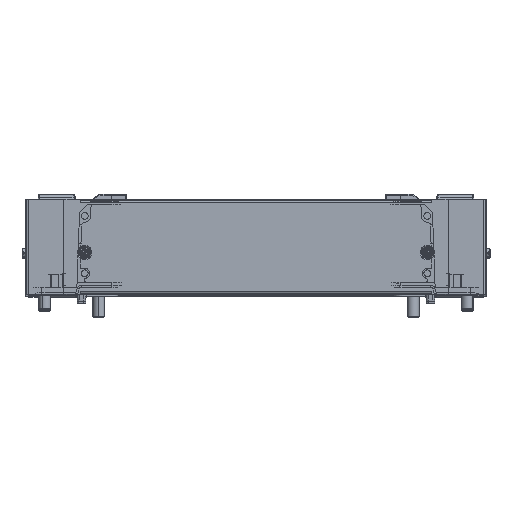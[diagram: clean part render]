
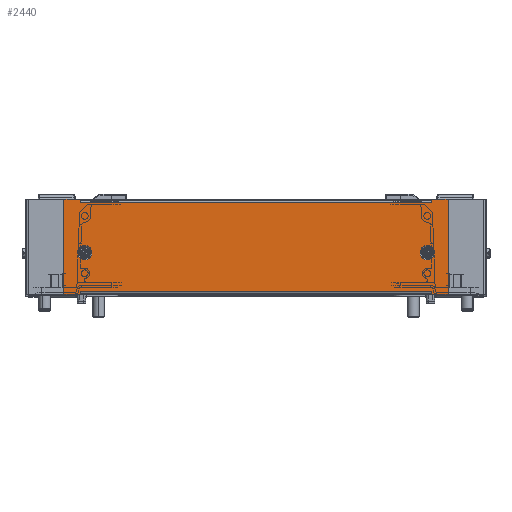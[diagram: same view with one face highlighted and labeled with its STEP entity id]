
A CAD part, top view. The second image highlights one B-rep face of the part: STEP entity #2440.
In plain terms, the highlighted planar face has unit normal (0, 0, 1) as drawn and (0, 0, -1) by its records, which use the part's own axes.
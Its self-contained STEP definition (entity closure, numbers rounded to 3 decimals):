
#2092 = VERTEX_POINT ( 'NONE', #19610 ) ;
#2094 = EDGE_CURVE ( 'NONE', #2092, #2095, #19609, .T. ) ;
#2095 = VERTEX_POINT ( 'NONE', #19603 ) ;
#2158 = VERTEX_POINT ( 'NONE', #19670 ) ;
#2162 = EDGE_CURVE ( 'NONE', #2158, #2163, #19669, .T. ) ;
#2163 = VERTEX_POINT ( 'NONE', #19665 ) ;
#2177 = EDGE_CURVE ( 'NONE', #2275, #2277, #19657, .T. ) ;
#2249 = VERTEX_POINT ( 'NONE', #19759 ) ;
#2253 = EDGE_CURVE ( 'NONE', #2249, #2256, #19758, .T. ) ;
#2256 = VERTEX_POINT ( 'NONE', #19753 ) ;
#2269 = EDGE_CURVE ( 'NONE', #2271, #2273, #19745, .T. ) ;
#2271 = VERTEX_POINT ( 'NONE', #19854 ) ;
#2273 = VERTEX_POINT ( 'NONE', #19853 ) ;
#2275 = VERTEX_POINT ( 'NONE', #19852 ) ;
#2277 = VERTEX_POINT ( 'NONE', #19850 ) ;
#2307 = ORIENTED_EDGE ( 'NONE', *, *, #2094, .F. ) ;
#2310 = EDGE_LOOP ( 'NONE', ( #2311, #2312, #2416, #2418, #2423, #2429, #2433, #2435, #2387, #2389, #2394, #2400 ) ) ;
#2311 = ORIENTED_EDGE ( 'NONE', *, *, #2162, .F. ) ;
#2312 = ORIENTED_EDGE ( 'NONE', *, *, #2414, .T. ) ;
#2387 = ORIENTED_EDGE ( 'NONE', *, *, #2269, .F. ) ;
#2389 = ORIENTED_EDGE ( 'NONE', *, *, #2391, .F. ) ;
#2391 = EDGE_CURVE ( 'NONE', #2393, #2271, #19996, .T. ) ;
#2393 = VERTEX_POINT ( 'NONE', #19991 ) ;
#2394 = ORIENTED_EDGE ( 'NONE', *, *, #2396, .F. ) ;
#2396 = EDGE_CURVE ( 'NONE', #2398, #2393, #19987, .T. ) ;
#2398 = VERTEX_POINT ( 'NONE', #19981 ) ;
#2400 = ORIENTED_EDGE ( 'NONE', *, *, #2402, .F. ) ;
#2402 = EDGE_CURVE ( 'NONE', #2163, #2398, #19980, .T. ) ;
#2414 = EDGE_CURVE ( 'NONE', #2158, #2277, #20086, .T. ) ;
#2416 = ORIENTED_EDGE ( 'NONE', *, *, #2177, .F. ) ;
#2418 = ORIENTED_EDGE ( 'NONE', *, *, #2420, .F. ) ;
#2420 = EDGE_CURVE ( 'NONE', #2421, #2275, #20068, .T. ) ;
#2421 = VERTEX_POINT ( 'NONE', #20064 ) ;
#2423 = ORIENTED_EDGE ( 'NONE', *, *, #2425, .F. ) ;
#2425 = EDGE_CURVE ( 'NONE', #2427, #2421, #20059, .T. ) ;
#2427 = VERTEX_POINT ( 'NONE', #20054 ) ;
#2429 = ORIENTED_EDGE ( 'NONE', *, *, #2431, .F. ) ;
#2431 = EDGE_CURVE ( 'NONE', #2256, #2427, #20047, .T. ) ;
#2433 = ORIENTED_EDGE ( 'NONE', *, *, #2253, .F. ) ;
#2435 = ORIENTED_EDGE ( 'NONE', *, *, #2436, .T. ) ;
#2436 = EDGE_CURVE ( 'NONE', #2249, #2273, #20039, .T. ) ;
#2440 = ADVANCED_FACE ( 'NONE', ( #20034, #20033, #20032 ), #20161, .F. ) ;
#2442 = EDGE_LOOP ( 'NONE', ( #2443, #2445 ) ) ;
#2443 = ORIENTED_EDGE ( 'NONE', *, *, #2444, .F. ) ;
#2444 = EDGE_CURVE ( 'NONE', #16453, #27323, #20155, .T. ) ;
#2445 = ORIENTED_EDGE ( 'NONE', *, *, #30381, .F. ) ;
#2447 = EDGE_LOOP ( 'NONE', ( #2448, #2307 ) ) ;
#2448 = ORIENTED_EDGE ( 'NONE', *, *, #2449, .F. ) ;
#2449 = EDGE_CURVE ( 'NONE', #2095, #2092, #20136, .T. ) ;
#16453 = VERTEX_POINT ( 'NONE', #37159 ) ;
#19603 = CARTESIAN_POINT ( 'NONE',  ( -6.689, 0.511, 0. ) ) ;
#19604 = DIRECTION ( 'NONE',  ( 0., 1., 0. ) ) ;
#19605 = DIRECTION ( 'NONE',  ( 0., 0., -1. ) ) ;
#19606 = CARTESIAN_POINT ( 'NONE',  ( -6.689, 0.226, 0. ) ) ;
#19607 = AXIS2_PLACEMENT_3D ( 'NONE', #19606, #19605, #19604 ) ;
#19609 = CIRCLE ( 'NONE', #19607, 0.284 ) ;
#19610 = CARTESIAN_POINT ( 'NONE',  ( -6.689, -0.058, 0. ) ) ;
#19651 = DIRECTION ( 'NONE',  ( 0., 1., 0. ) ) ;
#19652 = VECTOR ( 'NONE', #19651, 39.37 ) ;
#19653 = CARTESIAN_POINT ( 'NONE',  ( -6.853, -1.858, 0. ) ) ;
#19657 = LINE ( 'NONE', #19653, #19652 ) ;
#19665 = CARTESIAN_POINT ( 'NONE',  ( 6.853, -1.858, 0. ) ) ;
#19666 = DIRECTION ( 'NONE',  ( 0., -1., 0. ) ) ;
#19667 = VECTOR ( 'NONE', #19666, 39.37 ) ;
#19668 = CARTESIAN_POINT ( 'NONE',  ( 6.853, -1.858, 0. ) ) ;
#19669 = LINE ( 'NONE', #19668, #19667 ) ;
#19670 = CARTESIAN_POINT ( 'NONE',  ( 6.853, -1.743, 0. ) ) ;
#19740 = DIRECTION ( 'NONE',  ( 0., -1., 0. ) ) ;
#19741 = CARTESIAN_POINT ( 'NONE',  ( 6.853, -1.858, 0. ) ) ;
#19745 = LINE ( 'NONE', #19741, #19857 ) ;
#19753 = CARTESIAN_POINT ( 'NONE',  ( -6.853, 1.857, 0. ) ) ;
#19754 = DIRECTION ( 'NONE',  ( 0., 1., 0. ) ) ;
#19755 = VECTOR ( 'NONE', #19754, 39.37 ) ;
#19757 = CARTESIAN_POINT ( 'NONE',  ( -6.853, -1.858, 0. ) ) ;
#19758 = LINE ( 'NONE', #19757, #19755 ) ;
#19759 = CARTESIAN_POINT ( 'NONE',  ( -6.853, 1.743, 0. ) ) ;
#19850 = CARTESIAN_POINT ( 'NONE',  ( -6.853, -1.743, 0. ) ) ;
#19852 = CARTESIAN_POINT ( 'NONE',  ( -6.853, -1.858, 0. ) ) ;
#19853 = CARTESIAN_POINT ( 'NONE',  ( 6.853, 1.743, 0. ) ) ;
#19854 = CARTESIAN_POINT ( 'NONE',  ( 6.853, 1.857, 0. ) ) ;
#19857 = VECTOR ( 'NONE', #19740, 39.37 ) ;
#19977 = DIRECTION ( 'NONE',  ( 1., 0., 0. ) ) ;
#19978 = CARTESIAN_POINT ( 'NONE',  ( -7.5, -1.858, 0. ) ) ;
#19980 = LINE ( 'NONE', #19978, #20097 ) ;
#19981 = CARTESIAN_POINT ( 'NONE',  ( 7.5, -1.858, 0. ) ) ;
#19984 = DIRECTION ( 'NONE',  ( 0., 1., 0. ) ) ;
#19985 = VECTOR ( 'NONE', #19984, 39.37 ) ;
#19986 = CARTESIAN_POINT ( 'NONE',  ( 7.5, 1.857, 0. ) ) ;
#19987 = LINE ( 'NONE', #19986, #19985 ) ;
#19991 = CARTESIAN_POINT ( 'NONE',  ( 7.5, 1.857, 0. ) ) ;
#19993 = DIRECTION ( 'NONE',  ( -1., 0., 0. ) ) ;
#19994 = VECTOR ( 'NONE', #19993, 39.37 ) ;
#19995 = CARTESIAN_POINT ( 'NONE',  ( -7.5, 1.857, 0. ) ) ;
#19996 = LINE ( 'NONE', #19995, #19994 ) ;
#20032 = FACE_OUTER_BOUND ( 'NONE', #2310, .T. ) ;
#20033 = FACE_BOUND ( 'NONE', #2447, .T. ) ;
#20034 = FACE_BOUND ( 'NONE', #2442, .T. ) ;
#20035 = DIRECTION ( 'NONE',  ( 1., 0., 0. ) ) ;
#20036 = VECTOR ( 'NONE', #20035, 39.37 ) ;
#20037 = CARTESIAN_POINT ( 'NONE',  ( -6.853, 1.742, 0. ) ) ;
#20039 = LINE ( 'NONE', #20037, #20036 ) ;
#20043 = DIRECTION ( 'NONE',  ( -1., 0., 0. ) ) ;
#20044 = VECTOR ( 'NONE', #20043, 39.37 ) ;
#20045 = CARTESIAN_POINT ( 'NONE',  ( -7.5, 1.857, 0. ) ) ;
#20047 = LINE ( 'NONE', #20045, #20044 ) ;
#20054 = CARTESIAN_POINT ( 'NONE',  ( -7.5, 1.857, 0. ) ) ;
#20056 = DIRECTION ( 'NONE',  ( 0., -1., 0. ) ) ;
#20057 = VECTOR ( 'NONE', #20056, 39.37 ) ;
#20058 = CARTESIAN_POINT ( 'NONE',  ( -7.5, 1.857, 0. ) ) ;
#20059 = LINE ( 'NONE', #20058, #20057 ) ;
#20064 = CARTESIAN_POINT ( 'NONE',  ( -7.5, -1.858, 0. ) ) ;
#20065 = DIRECTION ( 'NONE',  ( 1., 0., 0. ) ) ;
#20066 = VECTOR ( 'NONE', #20065, 39.37 ) ;
#20067 = CARTESIAN_POINT ( 'NONE',  ( -7.5, -1.858, 0. ) ) ;
#20068 = LINE ( 'NONE', #20067, #20066 ) ;
#20072 = DIRECTION ( 'NONE',  ( -1., 0., 0. ) ) ;
#20074 = VECTOR ( 'NONE', #20072, 39.37 ) ;
#20076 = CARTESIAN_POINT ( 'NONE',  ( 6.853, -1.743, 0. ) ) ;
#20086 = LINE ( 'NONE', #20076, #20074 ) ;
#20097 = VECTOR ( 'NONE', #19977, 39.37 ) ;
#20132 = DIRECTION ( 'NONE',  ( 0., 1., 0. ) ) ;
#20133 = DIRECTION ( 'NONE',  ( 0., 0., -1. ) ) ;
#20134 = CARTESIAN_POINT ( 'NONE',  ( -6.689, 0.226, 0. ) ) ;
#20135 = AXIS2_PLACEMENT_3D ( 'NONE', #20134, #20133, #20132 ) ;
#20136 = CIRCLE ( 'NONE', #20135, 0.284 ) ;
#20138 = DIRECTION ( 'NONE',  ( 0., 1., 0. ) ) ;
#20140 = DIRECTION ( 'NONE',  ( 0., 0., -1. ) ) ;
#20142 = CARTESIAN_POINT ( 'NONE',  ( 6.689, 0.226, 0. ) ) ;
#20143 = AXIS2_PLACEMENT_3D ( 'NONE', #20142, #20140, #20138 ) ;
#20149 = DIRECTION ( 'NONE',  ( 1., 0., 0. ) ) ;
#20151 = DIRECTION ( 'NONE',  ( 0., 0., 1. ) ) ;
#20153 = CARTESIAN_POINT ( 'NONE',  ( -7.5, -1.858, 0. ) ) ;
#20155 = CIRCLE ( 'NONE', #20143, 0.284 ) ;
#20159 = AXIS2_PLACEMENT_3D ( 'NONE', #20153, #20151, #20149 ) ;
#20161 = PLANE ( 'NONE',  #20159 ) ;
#27323 = VERTEX_POINT ( 'NONE', #38134 ) ;
#30381 = EDGE_CURVE ( 'NONE', #27323, #16453, #38198, .T. ) ;
#37159 = CARTESIAN_POINT ( 'NONE',  ( 6.689, 0.511, 0. ) ) ;
#38134 = CARTESIAN_POINT ( 'NONE',  ( 6.689, -0.058, 0. ) ) ;
#38194 = DIRECTION ( 'NONE',  ( 0., 1., 0. ) ) ;
#38195 = DIRECTION ( 'NONE',  ( 0., 0., -1. ) ) ;
#38196 = CARTESIAN_POINT ( 'NONE',  ( 6.689, 0.226, 0. ) ) ;
#38197 = AXIS2_PLACEMENT_3D ( 'NONE', #38196, #38195, #38194 ) ;
#38198 = CIRCLE ( 'NONE', #38197, 0.284 ) ;
